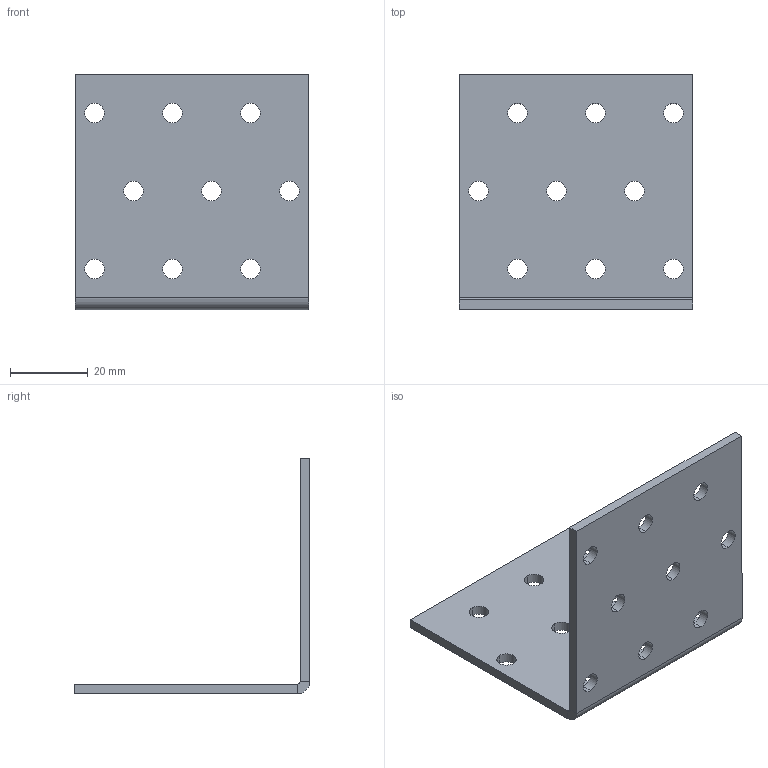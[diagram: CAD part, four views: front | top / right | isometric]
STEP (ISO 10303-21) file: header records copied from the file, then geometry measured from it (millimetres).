
FILE_DESCRIPTION (( 'STEP AP203' ), '1' );
FILE_NAME ('10526.STEP', '2020-04-20T10:53:28', ( '' ), ( '' ), 'SwSTEP 2.0', 'SolidWorks 2013', '' );
FILE_SCHEMA (( 'CONFIG_CONTROL_DESIGN' ));
Length unit declared in the file: millimetre
Products named in the file (1): 10526
Bounding box: 60 x 60.46 x 60.46 mm (x, y, z)
Volume: 16752 mm3; surface area: 14996.3 mm2
Topology: 1 solids, 1 shells, 48 faces, 134 edges, 88 vertices
Faces by surface type: cylinder 38, plane 10
Entity records: 1731 total; most frequent: DIRECTION 308, CARTESIAN_POINT 271, ORIENTED_EDGE 268, EDGE_CURVE 134, AXIS2_PLACEMENT_3D 125, VERTEX_POINT 88, EDGE_LOOP 84, CIRCLE 76
